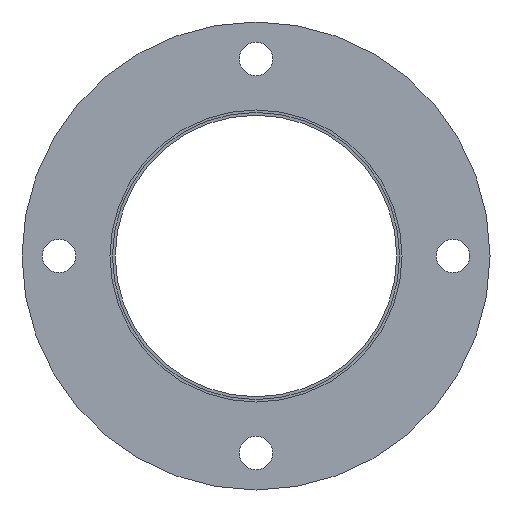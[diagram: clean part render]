
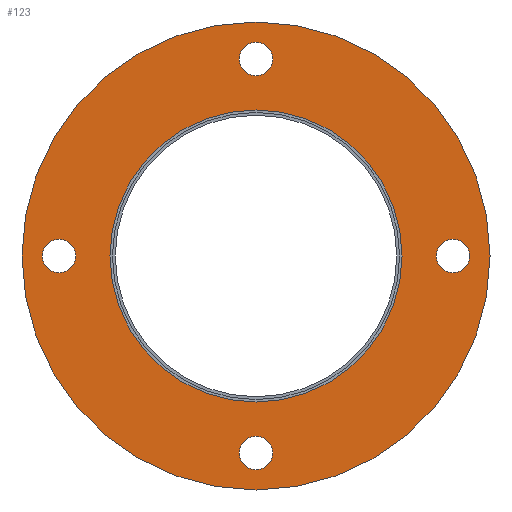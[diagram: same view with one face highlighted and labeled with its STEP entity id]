
A CAD part, front view. The second image highlights one B-rep face of the part: STEP entity #123.
In plain terms, the highlighted planar face has unit normal (0, -1, 0).
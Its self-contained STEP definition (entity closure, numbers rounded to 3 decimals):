
#123=ADVANCED_FACE('',(#167,#168,#169,#170,#171,#172),#142,.T.);
#142=PLANE('',#418);
#167=FACE_BOUND('',#221,.T.);
#168=FACE_BOUND('',#222,.T.);
#169=FACE_BOUND('',#223,.T.);
#170=FACE_BOUND('',#224,.T.);
#171=FACE_BOUND('',#225,.T.);
#172=FACE_BOUND('',#226,.T.);
#221=EDGE_LOOP('',(#275));
#222=EDGE_LOOP('',(#276));
#223=EDGE_LOOP('',(#277));
#224=EDGE_LOOP('',(#278));
#225=EDGE_LOOP('',(#279));
#226=EDGE_LOOP('',(#280));
#275=ORIENTED_EDGE('',*,*,#349,.F.);
#276=ORIENTED_EDGE('',*,*,#350,.F.);
#277=ORIENTED_EDGE('',*,*,#351,.F.);
#278=ORIENTED_EDGE('',*,*,#352,.F.);
#279=ORIENTED_EDGE('',*,*,#353,.F.);
#280=ORIENTED_EDGE('',*,*,#354,.F.);
#322=VERTEX_POINT('',#579);
#323=VERTEX_POINT('',#581);
#324=VERTEX_POINT('',#583);
#325=VERTEX_POINT('',#585);
#326=VERTEX_POINT('',#587);
#327=VERTEX_POINT('',#589);
#349=EDGE_CURVE('',#322,#322,#376,.T.);
#350=EDGE_CURVE('',#323,#323,#377,.T.);
#351=EDGE_CURVE('',#324,#324,#378,.T.);
#352=EDGE_CURVE('',#325,#325,#379,.T.);
#353=EDGE_CURVE('',#326,#326,#380,.T.);
#354=EDGE_CURVE('',#327,#327,#381,.T.);
#376=CIRCLE('',#412,4.75);
#377=CIRCLE('',#413,4.75);
#378=CIRCLE('',#414,4.75);
#379=CIRCLE('',#415,4.75);
#380=CIRCLE('',#416,41.5);
#381=CIRCLE('',#417,66.5);
#412=AXIS2_PLACEMENT_3D('',#578,#485,#486);
#413=AXIS2_PLACEMENT_3D('',#580,#487,#488);
#414=AXIS2_PLACEMENT_3D('',#582,#489,#490);
#415=AXIS2_PLACEMENT_3D('',#584,#491,#492);
#416=AXIS2_PLACEMENT_3D('',#586,#493,#494);
#417=AXIS2_PLACEMENT_3D('',#588,#495,#496);
#418=AXIS2_PLACEMENT_3D('',#590,#497,#498);
#485=DIRECTION('',(0.,-1.,0.));
#486=DIRECTION('',(0.,0.,-1.));
#487=DIRECTION('',(0.,-1.,0.));
#488=DIRECTION('',(0.,0.,-1.));
#489=DIRECTION('',(0.,-1.,0.));
#490=DIRECTION('',(0.,0.,-1.));
#491=DIRECTION('',(0.,-1.,0.));
#492=DIRECTION('',(0.,0.,-1.));
#493=DIRECTION('',(0.,-1.,0.));
#494=DIRECTION('',(0.,0.,-1.));
#495=DIRECTION('',(0.,1.,0.));
#496=DIRECTION('',(0.,0.,1.));
#497=DIRECTION('',(0.,-1.,0.));
#498=DIRECTION('',(0.,0.,-1.));
#578=CARTESIAN_POINT('',(0.,93.7,-56.));
#579=CARTESIAN_POINT('',(0.,93.7,-60.75));
#580=CARTESIAN_POINT('',(56.,93.7,0.));
#581=CARTESIAN_POINT('',(56.,93.7,-4.75));
#582=CARTESIAN_POINT('',(0.,93.7,56.));
#583=CARTESIAN_POINT('',(0.,93.7,51.25));
#584=CARTESIAN_POINT('',(-56.,93.7,0.));
#585=CARTESIAN_POINT('',(-56.,93.7,-4.75));
#586=CARTESIAN_POINT('',(0.,93.7,0.));
#587=CARTESIAN_POINT('',(0.,93.7,-41.5));
#588=CARTESIAN_POINT('',(0.,93.7,0.));
#589=CARTESIAN_POINT('',(0.,93.7,66.5));
#590=CARTESIAN_POINT('',(0.,93.7,0.));
